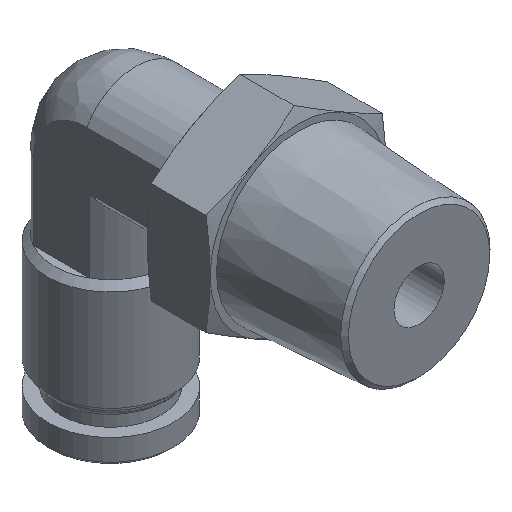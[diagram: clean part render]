
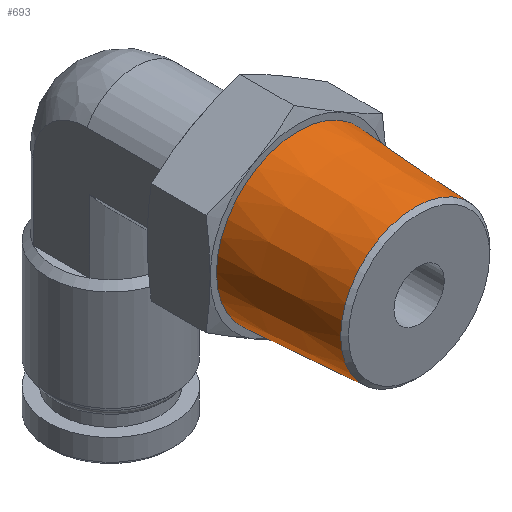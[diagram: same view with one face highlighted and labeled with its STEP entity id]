
A CAD part, isometric view. The second image highlights one B-rep face of the part: STEP entity #693.
In plain terms, the highlighted conical face has half-angle 3.5 degrees and reference radius 6.206 mm.
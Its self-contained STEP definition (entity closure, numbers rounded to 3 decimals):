
#82=FACE_OUTER_BOUND('',#131,.T.);
#131=EDGE_LOOP('',(#471,#472,#473,#474,#475));
#188=LINE('',#1101,#218);
#218=VECTOR('',#875,6.206);
#248=CIRCLE('',#766,5.931);
#249=CIRCLE('',#767,5.931);
#250=CIRCLE('',#769,6.5);
#298=VERTEX_POINT('',#1094);
#299=VERTEX_POINT('',#1096);
#300=VERTEX_POINT('',#1100);
#363=EDGE_CURVE('',#298,#299,#248,.T.);
#364=EDGE_CURVE('',#299,#298,#249,.T.);
#365=EDGE_CURVE('',#299,#300,#188,.T.);
#366=EDGE_CURVE('',#300,#300,#250,.T.);
#471=ORIENTED_EDGE('',*,*,#363,.F.);
#472=ORIENTED_EDGE('',*,*,#364,.F.);
#473=ORIENTED_EDGE('',*,*,#365,.T.);
#474=ORIENTED_EDGE('',*,*,#366,.F.);
#475=ORIENTED_EDGE('',*,*,#365,.F.);
#677=CONICAL_SURFACE('',#768,6.206,0.061);
#693=ADVANCED_FACE('',(#82),#677,.T.);
#766=AXIS2_PLACEMENT_3D('',#1097,#869,#870);
#767=AXIS2_PLACEMENT_3D('',#1098,#871,#872);
#768=AXIS2_PLACEMENT_3D('',#1099,#873,#874);
#769=AXIS2_PLACEMENT_3D('',#1102,#876,#877);
#869=DIRECTION('center_axis',(0.,-1.,0.));
#870=DIRECTION('ref_axis',(0.,0.,1.));
#871=DIRECTION('center_axis',(0.,-1.,0.));
#872=DIRECTION('ref_axis',(0.,0.,1.));
#873=DIRECTION('center_axis',(0.,1.,0.));
#874=DIRECTION('ref_axis',(0.,0.,-1.));
#875=DIRECTION('',(0.,0.998,0.061));
#876=DIRECTION('center_axis',(0.,1.,0.));
#877=DIRECTION('ref_axis',(0.,0.,-1.));
#1094=CARTESIAN_POINT('',(0.,-15.301,-5.931));
#1096=CARTESIAN_POINT('',(0.,-15.301,5.931));
#1097=CARTESIAN_POINT('Origin',(0.,-15.301,
0.));
#1098=CARTESIAN_POINT('Origin',(0.,-15.301,
0.));
#1099=CARTESIAN_POINT('Origin',(0.,-10.8,0.));
#1100=CARTESIAN_POINT('',(0.,-6.,6.5));
#1101=CARTESIAN_POINT('',(0.,-10.8,6.206));
#1102=CARTESIAN_POINT('Origin',(0.,-6.,0.));
